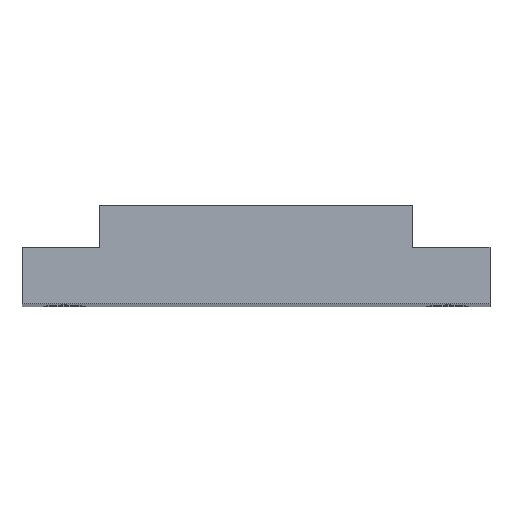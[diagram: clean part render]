
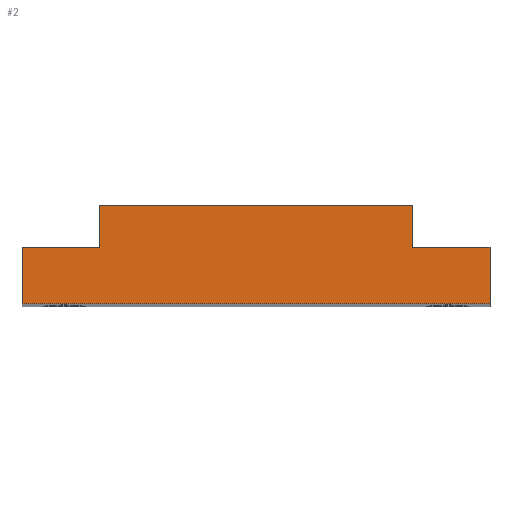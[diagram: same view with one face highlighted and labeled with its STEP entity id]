
A CAD part, top view. The second image highlights one B-rep face of the part: STEP entity #2.
In plain terms, the highlighted planar face has unit normal (0, 0, 1).
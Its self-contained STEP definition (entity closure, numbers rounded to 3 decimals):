
#2 = ADVANCED_FACE ( 'NONE', ( #52 ), #347, .T. ) ;
#6 = DIRECTION ( 'NONE',  ( -1., 0., 0. ) ) ;
#18 = EDGE_CURVE ( 'NONE', #841, #316, #98, .T. ) ;
#45 = EDGE_CURVE ( 'NONE', #316, #250, #284, .T. ) ;
#46 = CARTESIAN_POINT ( 'NONE',  ( -25., -3., 192. ) ) ;
#52 = FACE_OUTER_BOUND ( 'NONE', #132, .T. ) ;
#73 = DIRECTION ( 'NONE',  ( 0., 1., 0. ) ) ;
#83 = VECTOR ( 'NONE', #453, 1000. ) ;
#98 = LINE ( 'NONE', #631, #217 ) ;
#119 = VERTEX_POINT ( 'NONE', #300 ) ;
#131 = CARTESIAN_POINT ( 'NONE',  ( -16.75, 3., 192. ) ) ;
#132 = EDGE_LOOP ( 'NONE', ( #840, #464, #361, #450, #301, #486, #363, #339 ) ) ;
#145 = VERTEX_POINT ( 'NONE', #582 ) ;
#197 = CARTESIAN_POINT ( 'NONE',  ( -16.75, 7.5, 192. ) ) ;
#202 = CARTESIAN_POINT ( 'NONE',  ( 25., -3., 192. ) ) ;
#209 = DIRECTION ( 'NONE',  ( 1., 0., 0. ) ) ;
#213 = EDGE_CURVE ( 'NONE', #145, #377, #714, .T. ) ;
#214 = DIRECTION ( 'NONE',  ( 0., -1., 0. ) ) ;
#217 = VECTOR ( 'NONE', #214, 1000. ) ;
#237 = VECTOR ( 'NONE', #209, 1000. ) ;
#250 = VERTEX_POINT ( 'NONE', #378 ) ;
#284 = LINE ( 'NONE', #202, #237 ) ;
#300 = CARTESIAN_POINT ( 'NONE',  ( 16.75, 3., 192. ) ) ;
#301 = ORIENTED_EDGE ( 'NONE', *, *, #541, .T. ) ;
#312 = LINE ( 'NONE', #590, #83 ) ;
#316 = VERTEX_POINT ( 'NONE', #46 ) ;
#320 = LINE ( 'NONE', #484, #913 ) ;
#334 = DIRECTION ( 'NONE',  ( -1., 0., 0. ) ) ;
#339 = ORIENTED_EDGE ( 'NONE', *, *, #829, .T. ) ;
#347 = PLANE ( 'NONE',  #799 ) ;
#361 = ORIENTED_EDGE ( 'NONE', *, *, #862, .T. ) ;
#363 = ORIENTED_EDGE ( 'NONE', *, *, #213, .T. ) ;
#377 = VERTEX_POINT ( 'NONE', #399 ) ;
#378 = CARTESIAN_POINT ( 'NONE',  ( 25., -3., 192. ) ) ;
#399 = CARTESIAN_POINT ( 'NONE',  ( -16.75, 3., 192. ) ) ;
#403 = LINE ( 'NONE', #639, #618 ) ;
#450 = ORIENTED_EDGE ( 'NONE', *, *, #514, .T. ) ;
#453 = DIRECTION ( 'NONE',  ( 0., 1., 0. ) ) ;
#464 = ORIENTED_EDGE ( 'NONE', *, *, #45, .T. ) ;
#484 = CARTESIAN_POINT ( 'NONE',  ( 25., -3., 192. ) ) ;
#486 = ORIENTED_EDGE ( 'NONE', *, *, #808, .T. ) ;
#504 = LINE ( 'NONE', #131, #539 ) ;
#514 = EDGE_CURVE ( 'NONE', #690, #119, #403, .T. ) ;
#518 = VECTOR ( 'NONE', #589, 1000. ) ;
#539 = VECTOR ( 'NONE', #561, 1000. ) ;
#541 = EDGE_CURVE ( 'NONE', #119, #761, #312, .T. ) ;
#561 = DIRECTION ( 'NONE',  ( -1., 0., 0. ) ) ;
#574 = CARTESIAN_POINT ( 'NONE',  ( 0., 0., 192. ) ) ;
#582 = CARTESIAN_POINT ( 'NONE',  ( -16.75, 7.5, 192. ) ) ;
#589 = DIRECTION ( 'NONE',  ( 0., -1., 0. ) ) ;
#590 = CARTESIAN_POINT ( 'NONE',  ( 16.75, 7.5, 192. ) ) ;
#618 = VECTOR ( 'NONE', #6, 1000. ) ;
#631 = CARTESIAN_POINT ( 'NONE',  ( -25., -3., 192. ) ) ;
#639 = CARTESIAN_POINT ( 'NONE',  ( 25., 3., 192. ) ) ;
#690 = VERTEX_POINT ( 'NONE', #830 ) ;
#693 = LINE ( 'NONE', #197, #877 ) ;
#706 = CARTESIAN_POINT ( 'NONE',  ( -25., 3., 192. ) ) ;
#714 = LINE ( 'NONE', #807, #518 ) ;
#761 = VERTEX_POINT ( 'NONE', #903 ) ;
#779 = DIRECTION ( 'NONE',  ( 1., 0., 0. ) ) ;
#790 = DIRECTION ( 'NONE',  ( 0., 0., 1. ) ) ;
#799 = AXIS2_PLACEMENT_3D ( 'NONE', #574, #790, #779 ) ;
#807 = CARTESIAN_POINT ( 'NONE',  ( -16.75, 7.5, 192. ) ) ;
#808 = EDGE_CURVE ( 'NONE', #761, #145, #693, .T. ) ;
#829 = EDGE_CURVE ( 'NONE', #377, #841, #504, .T. ) ;
#830 = CARTESIAN_POINT ( 'NONE',  ( 25., 3., 192. ) ) ;
#840 = ORIENTED_EDGE ( 'NONE', *, *, #18, .T. ) ;
#841 = VERTEX_POINT ( 'NONE', #706 ) ;
#862 = EDGE_CURVE ( 'NONE', #250, #690, #320, .T. ) ;
#877 = VECTOR ( 'NONE', #334, 1000. ) ;
#903 = CARTESIAN_POINT ( 'NONE',  ( 16.75, 7.5, 192. ) ) ;
#913 = VECTOR ( 'NONE', #73, 1000. ) ;
